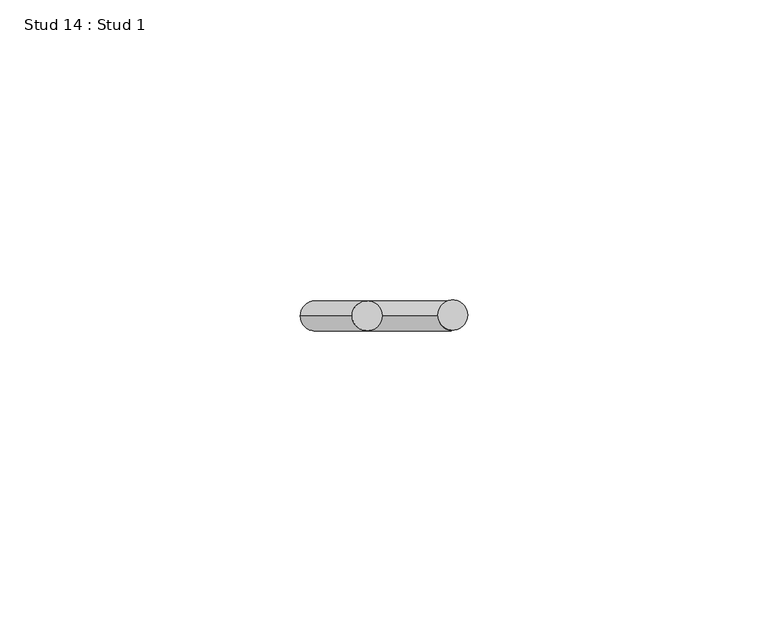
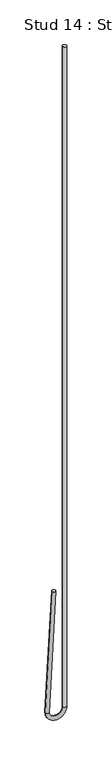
"""IFC4 building model written with IfcOpenShell, lengths in millimetres: proxy geometry, Stud 14 : Stud 1."""

from ifc_helpers import new_model, si_unit, point, frame, origin, place, context, project, spatial, circle_curve, ellipse_curve, trimmed, source, transform, mapped, element, save
from ifc_brep_helpers import plane_surface, cylinder_surface, revolved_surface, advanced_brep


def stud_14_stud_1_983f5c94(model_context):
    return source(origin(), model_context, "Body", "AdvancedBrep", [
        advanced_brep(
        [(-12209.2532788, 5867.5191481, 3640.800192), (-12204.2601311, 5867.5191481, 3640.5385122), (-12217.8939451, 5867.5191481, 3475.9264558), (-12212.9007975, 5867.5191481, 3475.664776), (-12194.9920812, 5867.5191481, 3475.7956159), (-12189.9920812, 5867.5191481, 3475.7956159), (-12189.9920812, 5867.5191481, 4390.1956159), (-12194.9920812, 5867.5191481, 4390.1956159)],
        [
            (0, 1, circle_curve(frame((-12206.7567049, 5867.5191481, 3640.6693521), z_axis=(0.05233595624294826, 0.0, 0.9986295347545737), x_axis=(0.9986295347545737, 0.0, -0.05233595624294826)), 2.5)),
            (1, 0, circle_curve(frame((-12206.7567049, 5867.5191481, 3640.6693521), z_axis=(0.05233595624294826, 0.0, 0.9986295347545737), x_axis=(0.9986295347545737, 0.0, -0.05233595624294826)), 2.5)),
            (0, 2),
            (2, 3, circle_curve(frame((-12215.3973713, 5867.5191481, 3475.7956159), z_axis=(0.05233595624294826, 0.0, 0.9986295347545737), x_axis=(0.9986295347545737, 0.0, -0.05233595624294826)), 2.5)),
            (3, 1),
            (3, 2, circle_curve(frame((-12215.3973713, 5867.5191481, 3475.7956159), z_axis=(0.05233595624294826, 0.0, 0.9986295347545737), x_axis=(0.9986295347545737, 0.0, -0.05233595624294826)), 2.5)),
            (4, 3, circle_curve(frame((-12203.9447263, 5867.5191481, 3475.7956159), z_axis=(0.0, 1.0, 0.0), x_axis=(-1.0, 0.0, 0.0)), 8.952645)),
            (2, 5, circle_curve(frame((-12203.9447263, 5867.5191481, 3475.7956159), z_axis=(0.0, -1.0, 0.0), x_axis=(-1.0, 0.0, 0.0)), 13.952645)),
            (5, 4, circle_curve(frame((-12192.4920812, 5867.5191481, 3475.7956159), z_axis=(0.0, 0.0, -1.0), x_axis=(-1.0, 0.0, 0.0)), 2.5)),
            (4, 5, circle_curve(frame((-12192.4920812, 5867.5191481, 3475.7956159), z_axis=(0.0, 0.0, -1.0), x_axis=(-1.0, 0.0, 0.0)), 2.5)),
            (6, 7, circle_curve(frame((-12192.4920812, 5867.5191481, 4390.1956159), z_axis=(0.0, 0.0, 1.0), x_axis=(-1.0, 0.0, 0.0)), 2.5)),
            (7, 6, circle_curve(frame((-12192.4920812, 5867.5191481, 4390.1956159), z_axis=(0.0, 0.0, 1.0), x_axis=(-1.0, 0.0, 0.0)), 2.5)),
            (5, 6),
            (7, 4),
        ],
        [
            plane_surface(frame((-12206.7567049, 6461.2441481, 3640.6693521), z_axis=(0.05233595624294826, 0.0, 0.9986295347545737), x_axis=(0.0, -1.0, 0.0))),
            cylinder_surface(frame((-12206.7567049, 5867.5191481, 3640.6693521), z_axis=(0.05233595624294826, 0.0, 0.9986295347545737), x_axis=(0.9986295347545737, 0.0, -0.05233595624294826)), 2.5),
            revolved_surface(trimmed(ellipse_curve(frame((-12215.3973713, 5867.5191481, 3475.7956159), z_axis=(0.0, 0.0, 1.0), x_axis=(1.0, 0.0, 0.0)), 2.5, 2.5), [point((-12217.8973713, 5867.5191481, 3475.7956159))], [point((-12212.8973713, 5867.5191481, 3475.7956159))], True, "CARTESIAN"), (-12203.9447263, 6461.2441481, 3475.7956159), (0.0, -1.0, 0.0)),
            revolved_surface(trimmed(ellipse_curve(frame((-12215.3973713, 5867.5191481, 3475.7956159), z_axis=(0.0, 0.0, 1.0), x_axis=(1.0, 0.0, 0.0)), 2.5, 2.5), [point((-12212.8973713, 5867.5191481, 3475.7956159))], [point((-12217.8973713, 5867.5191481, 3475.7956159))], True, "CARTESIAN"), (-12203.9447263, 6461.2441481, 3475.7956159), (0.0, -1.0, 0.0)),
            plane_surface(frame((-12192.4920812, 6461.2441481, 4390.1956159), z_axis=(0.0, 0.0, 1.0), x_axis=(0.0, -1.0, 0.0))),
            cylinder_surface(frame((-12192.4920812, 5867.5191481, 3475.7956159), z_axis=(0.0, 0.0, -1.0), x_axis=(-1.0, 0.0, 0.0)), 2.5),
        ],
        [
            (0, [[1, 2]]),
            (1, [[-1, 3, 4, 5]]),
            (1, [[-2, -5, 6, -3]]),
            (2, [[7, -4, 8, 9]]),
            (3, [[-8, -6, -7, 10]]),
            (4, [[11, 12]]),
            (5, [[-9, 13, -12, 14]]),
            (5, [[-10, -14, -11, -13]]),
        ],
    ),
    ])


if __name__ == "__main__":
    model = new_model("IFC4")
    model_context = context("Model", 3, world=origin())
    ifc_project = project(units=[si_unit("LENGTHUNIT", "METRE", prefix="MILLI")], contexts=[model_context])
    site = spatial("IfcSite", under=ifc_project)
    building = spatial("IfcBuilding", under=site)
    placement = place(None, origin())
    stud_14_stud_1_shape = stud_14_stud_1_983f5c94(model_context)
    element("IfcBuildingElementProxy", 1, Name="Stud 14 : Stud 1", ObjectType="Stud 14 : Stud 1", at=placement, inside=building, context=model_context, shape_type="MappedRepresentation", body=[
        mapped(stud_14_stud_1_shape, transform((0.0, 0.0, 0.0), x_axis=(1.0, 0.0, 0.0), y_axis=(0.0, 1.0, 0.0), z_axis=(0.0, 0.0, 1.0))),
    ])
    save(model, "model.ifc")
